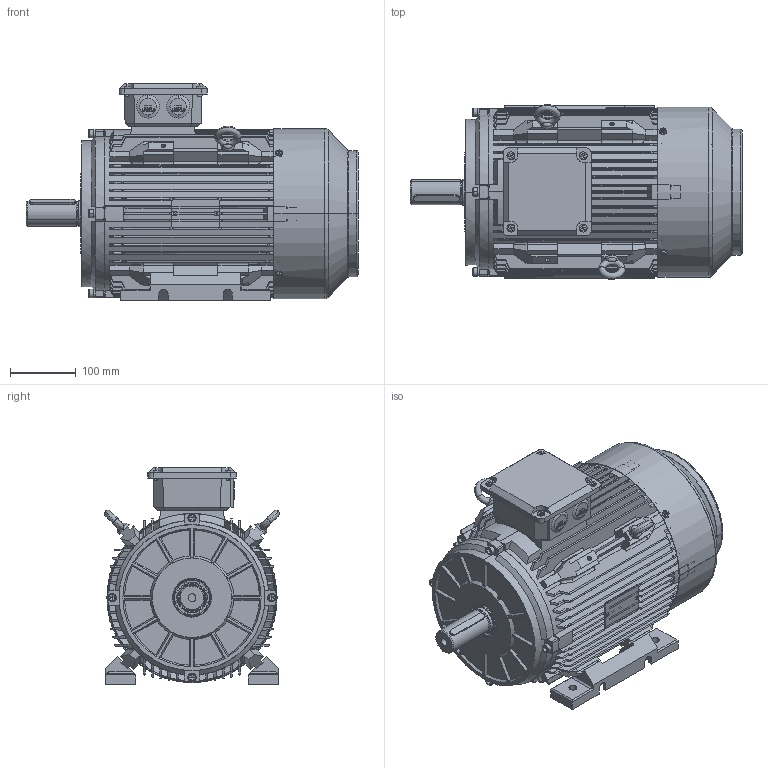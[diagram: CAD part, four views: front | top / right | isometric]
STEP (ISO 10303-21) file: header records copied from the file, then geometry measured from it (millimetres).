
FILE_DESCRIPTION (( 'STEP AP214' ), '1' );
FILE_NAME ('BCT3750.13D403.11.STEP', '2020-04-23T11:00:37', ( '' ), ( '' ), 'SwSTEP 2.0', 'SolidWorks 2019', '' );
FILE_SCHEMA (( 'AUTOMOTIVE_DESIGN' ));
Length unit declared in the file: millimetre
Products named in the file (1): BCT3750.13D403.11
Bounding box: 505 x 265.93 x 330.04 mm (x, y, z)
Volume: 4888422 mm3; surface area: 1768268.4 mm2
Topology: 35 solids, 35 shells, 4091 faces, 11298 edges, 7375 vertices
Faces by surface type: plane 2012, cylinder 1514, cone 339, bspline 114, torus 112
Entity records: 154551 total; most frequent: CARTESIAN_POINT 50167, ORIENTED_EDGE 22500, DIRECTION 20657, EDGE_CURVE 11250, VERTEX_POINT 7375, AXIS2_PLACEMENT_3D 7028, VECTOR 6601, LINE 6601
